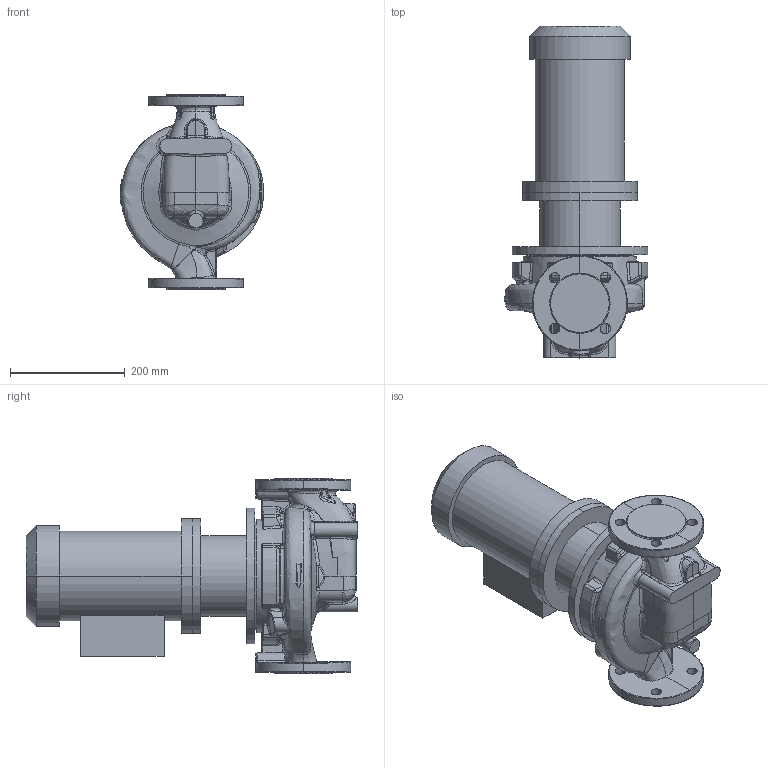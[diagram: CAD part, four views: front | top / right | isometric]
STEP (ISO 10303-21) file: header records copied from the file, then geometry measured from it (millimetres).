
FILE_DESCRIPTION (( 'STEP AP203' ), '1' );
FILE_NAME ('KRL 50-160-174_4-1,5.STEP', '2026-05-15T09:06:19', ( '' ), ( '' ), 'SwSTEP 2.0', 'SolidWorks 2016', '' );
FILE_SCHEMA (( 'CONFIG_CONTROL_DESIGN' ));
Length unit declared in the file: millimetre
Products named in the file (1): KRL 50-160-174_4-1,5
Bounding box: 249.65 x 577.3 x 340 mm (x, y, z)
Volume: 16022864.3 mm3; surface area: 821555.6 mm2
Topology: 4 solids, 4 shells, 661 faces, 1613 edges, 952 vertices
Faces by surface type: bspline 342, cylinder 126, plane 92, sphere 38, cone 35, torus 28
Entity records: 73425 total; most frequent: CARTESIAN_POINT 60922, ORIENTED_EDGE 3178, DIRECTION 1822, EDGE_CURVE 1589, VERTEX_POINT 952, AXIS2_PLACEMENT_3D 799, B_SPLINE_CURVE_WITH_KNOTS 758, EDGE_LOOP 693
